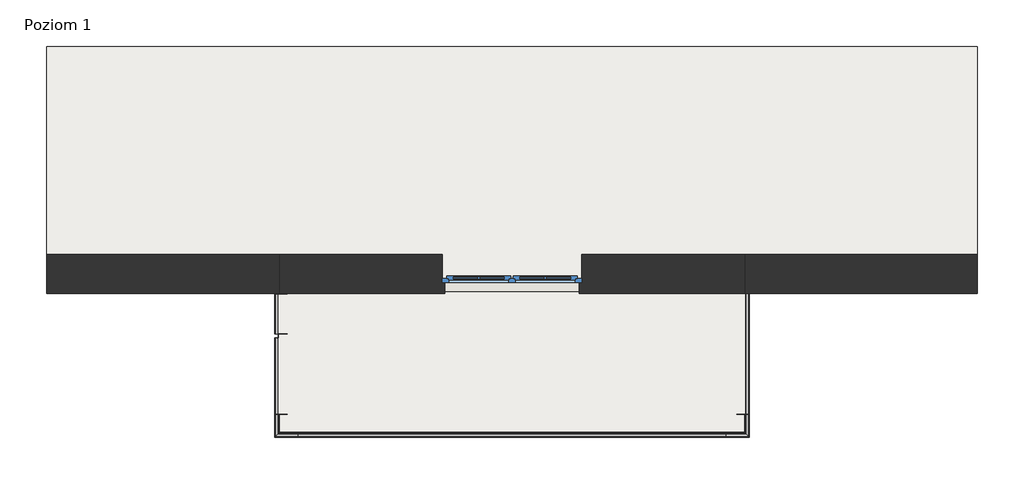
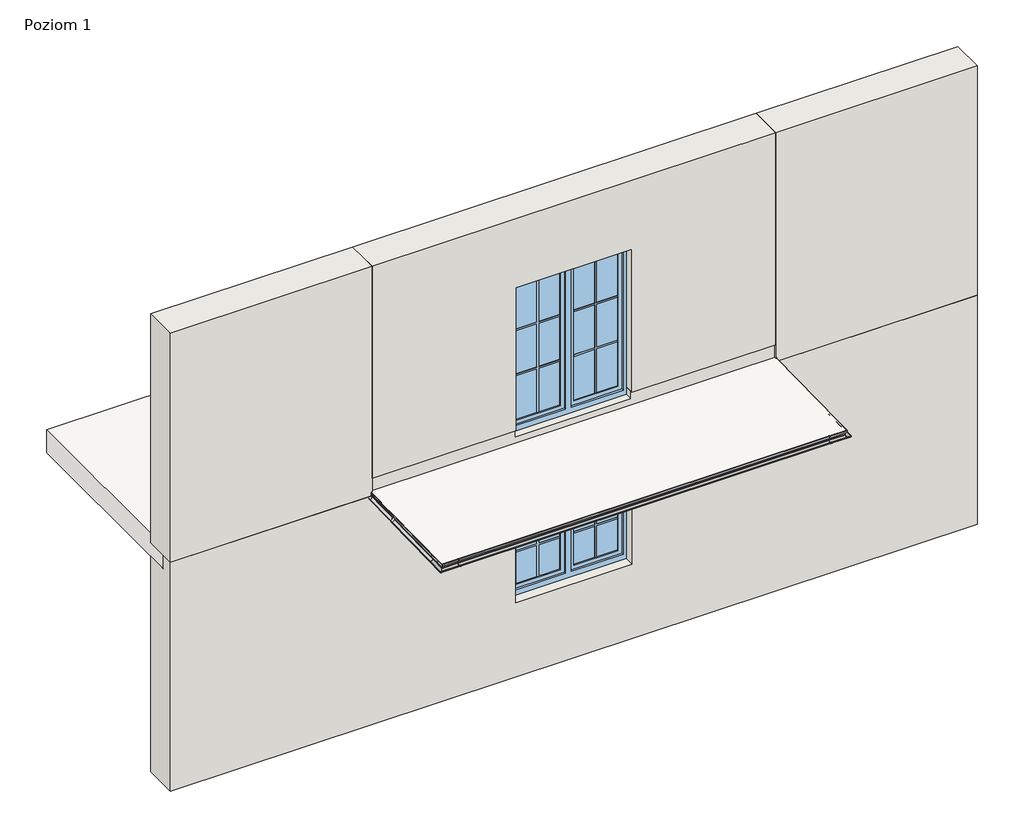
# One storey, part 1 of 4: 11 proxies, 5 walls, 2 slabs, 2 windows.
"""IFC4 building model written with IfcOpenShell, lengths in millimetres."""

from ifc_helpers import new_model, si_unit, origin, place, context, project, spatial, faceted_brep, transform, mapped, element, save
from components import k35_28f71dd0, k35_04bc4968, k35_f5893a44, k35_29e522b6, k35_ef854efd, opk35_b9e4c53d, opk35_ea140d36, rynna_alu_r50_rynna_alu_r50_54312427, rynna_alu_r50_rynna_alu_r50_f6262e87, rynna_alu_r50_rynna_alu_r50_866323d3, rynna_alu_r50_rynna_alu_r50_2037c152, window_150x150_51b7f79a, window_150x200_12b14935

model = new_model("IFC4")

# Units and contexts
model_context = context("Model", 3, world=origin())
ifc_project = project(units=[si_unit("LENGTHUNIT", "METRE", prefix="MILLI")], contexts=[model_context])

# Site, building, storey
site = spatial("IfcSite", under=ifc_project)
building = spatial("IfcBuilding", under=site)
storey = spatial("IfcBuildingStorey", under=building, Name="Poziom 1", Elevation=0.0)

# Proxies
placement = place(None, origin())
k35_shape = k35_28f71dd0(model_context)
element("IfcBuildingElementProxy", 1, Name="K35 Profil okapowy prosty z rynną : K35", ObjectType="K35 Profil okapowy prosty z rynną : K35", at=placement, inside=storey, context=model_context, shape_type="MappedRepresentation", body=[
    mapped(k35_shape, transform((-93404.0384126, 47766.9447036, -109.0), x_axis=(1.0, 0.0, 0.0), y_axis=(0.0, 0.9998044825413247, 0.019773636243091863), z_axis=(0.0, -0.019773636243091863, 0.9998044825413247))),
])
k35_2_shape = k35_04bc4968(model_context)
element("IfcBuildingElementProxy", 2, Name="K35 Profil okapowy prosty z rynną : K35", ObjectType="K35 Profil okapowy prosty z rynną : K35", at=placement, inside=storey, context=model_context, shape_type="MappedRepresentation", body=[
    mapped(k35_2_shape, transform((-93403.8139004, 47976.903645, -104.8475364), x_axis=(0.0, 0.9998044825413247, 0.01977363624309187), y_axis=(-1.0000000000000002, 0.0, 0.0), z_axis=(0.0, -0.019773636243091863, 0.9998044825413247))),
])
k35_3_shape = k35_f5893a44(model_context)
element("IfcBuildingElementProxy", 3, Name="K35 Profil okapowy prosty z rynną : K35", ObjectType="K35 Profil okapowy prosty z rynną : K35", at=placement, inside=storey, context=model_context, shape_type="MappedRepresentation", body=[
    mapped(k35_3_shape, transform((-93403.8139004, 48841.5338066, -87.7473107), x_axis=(0.0, 0.9998044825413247, 0.01977363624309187), y_axis=(-1.0000000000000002, 0.0, 0.0), z_axis=(0.0, -0.019773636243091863, 0.9998044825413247))),
])
k35_4_shape = k35_29e522b6(model_context)
element("IfcBuildingElementProxy", 4, Name="K35 Profil okapowy prosty z rynną : K35", ObjectType="K35 Profil okapowy prosty z rynną : K35", at=placement, inside=storey, context=model_context, shape_type="MappedRepresentation", body=[
    mapped(k35_4_shape, transform((-93403.8139004, 48796.7433207, -88.6331547), x_axis=(-0.006059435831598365, 0.9997861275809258, 0.019773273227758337), y_axis=(-0.9999816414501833, -0.0060582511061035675, -0.00011981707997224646), z_axis=(0.0, -0.019773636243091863, 0.9998044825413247))),
])
k35_5_shape = k35_ef854efd(model_context)
element("IfcBuildingElementProxy", 5, Name="K35 Profil okapowy prosty z rynną : K35", ObjectType="K35 Profil okapowy prosty z rynną : K35", at=placement, inside=storey, context=model_context, shape_type="MappedRepresentation", body=[
    mapped(k35_5_shape, transform((-88384.0373349, 47976.903645, -104.8475364), x_axis=(0.0002879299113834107, 0.9998044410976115, 0.019773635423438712), y_axis=(-0.9999999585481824, 0.0002878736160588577, 5.693421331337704e-06), z_axis=(0.0, -0.019773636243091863, 0.9998044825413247))),
])
opk35_shape = opk35_b9e4c53d(model_context)
element("IfcBuildingElementProxy", 6, Name="Odbojnik - OPK35 : OPK35", ObjectType="Odbojnik - OPK35 : OPK35", at=placement, inside=storey, context=model_context, shape_type="MappedRepresentation", body=[
    mapped(opk35_shape, transform((-93398.0639006, 49269.1632959, -95.086639), x_axis=(0.0, -0.9998044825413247, -0.01977363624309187), y_axis=(1.0000000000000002, 0.0, 0.0), z_axis=(0.0, -0.019773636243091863, 0.9998044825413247))),
])
opk35_2_shape = opk35_ea140d36(model_context)
element("IfcBuildingElementProxy", 7, Name="Odbojnik - OPK35 : OPK35", ObjectType="Odbojnik - OPK35 : OPK35", at=placement, inside=storey, context=model_context, shape_type="MappedRepresentation", body=[
    mapped(opk35_2_shape, transform((-88389.4138318, 49274.1638231, -94.987741), x_axis=(-0.0002879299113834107, -0.9998044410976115, -0.019773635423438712), y_axis=(0.9999999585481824, -0.0002878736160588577, -5.693421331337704e-06), z_axis=(0.0, -0.019773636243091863, 0.9998044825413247))),
])
rynna_alu_r50_rynna_alu_r50_shape = rynna_alu_r50_rynna_alu_r50_54312427(model_context)
element("IfcBuildingElementProxy", 8, Name="Rynna ALU R50 : Rynna ALU R50", ObjectType="Rynna ALU R50 : Rynna ALU R50", at=placement, inside=storey, context=model_context, shape_type="MappedRepresentation", body=[
    mapped(rynna_alu_r50_rynna_alu_r50_shape, transform((-90894.0384076, 47783.1321022, -128.3667451), x_axis=(1.0, 0.0, 0.0), y_axis=(0.0, 0.9998044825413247, 0.019773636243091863), z_axis=(0.0, -0.019773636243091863, 0.9998044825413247))),
])
rynna_alu_r50_rynna_alu_r50_2_shape = rynna_alu_r50_rynna_alu_r50_f6262e87(model_context)
element("IfcBuildingElementProxy", 9, Name="Rynna ALU R50 : Rynna ALU R50", ObjectType="Rynna ALU R50 : Rynna ALU R50", at=placement, inside=storey, context=model_context, shape_type="MappedRepresentation", body=[
    mapped(rynna_alu_r50_rynna_alu_r50_2_shape, transform((-93388.0126177, 48387.2126881, -116.4195394), x_axis=(0.0, 0.9998044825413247, 0.01977363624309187), y_axis=(-1.0000000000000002, 0.0, 0.0), z_axis=(0.0, -0.019773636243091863, 0.9998044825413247))),
])
rynna_alu_r50_rynna_alu_r50_3_shape = rynna_alu_r50_rynna_alu_r50_866323d3(model_context)
element("IfcBuildingElementProxy", 10, Name="Rynna ALU R50 : Rynna ALU R50", ObjectType="Rynna ALU R50 : Rynna ALU R50", at=placement, inside=storey, context=model_context, shape_type="MappedRepresentation", body=[
    mapped(rynna_alu_r50_rynna_alu_r50_3_shape, transform((-93388.0126177, 49056.9813336, -103.1731879), x_axis=(0.0, 0.9998044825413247, 0.01977363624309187), y_axis=(-1.0000000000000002, 0.0, 0.0), z_axis=(0.0, -0.019773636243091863, 0.9998044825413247))),
])
rynna_alu_r50_rynna_alu_r50_4_shape = rynna_alu_r50_rynna_alu_r50_2037c152(model_context)
element("IfcBuildingElementProxy", 11, Name="Rynna ALU R50 : Rynna ALU R50", ObjectType="Rynna ALU R50 : Rynna ALU R50", at=placement, inside=storey, context=model_context, shape_type="MappedRepresentation", body=[
    mapped(rynna_alu_r50_rynna_alu_r50_4_shape, transform((-88399.6514625, 48627.1702375, -111.6737782), x_axis=(0.0002879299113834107, 0.9998044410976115, 0.019773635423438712), y_axis=(-0.9999999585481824, 0.0002878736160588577, 5.693421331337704e-06), z_axis=(0.0, -0.019773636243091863, 0.9998044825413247))),
])

# Slabs
element("IfcSlab", 12, ObjectType="Balkon - wykończenie - posadzka ceramiczna", at=placement, inside=storey, context=model_context, shape_type="Brep", body=[
    faceted_brep([(-93404.0384126, 47766.9447036, -125.0), (-93404.0384126, 47766.9447036, -109.0), (-93404.0384126, 49384.9447036, -77.0), (-93404.0384126, 49384.9447036, -93.0), (-93394.0384126, 49384.9447036, -77.0), (-88394.0384126, 49384.9447036, -77.0), (-88384.0384126, 49384.9447036, -77.0), (-88384.0384126, 49384.9447036, -93.0), (-88394.0384126, 49384.9447036, -93.0), (-93394.0384126, 49384.9447036, -93.0), (-88384.0384126, 47766.9447036, -125.0), (-88384.0384126, 47766.9447036, -109.0)], [[[0, 1, 2, 3]], [[3, 2, 4, 5, 6, 7, 8, 9]], [[10, 11, 1, 0]], [[7, 6, 11, 10]], [[11, 6, 5, 4, 2, 1]], [[10, 0, 3, 9, 8, 7]]]),
])
element("IfcSlab", 13, ObjectType="Strop", at=placement, inside=storey, context=model_context, shape_type="Brep", body=[
    faceted_brep([(-85894.0384126, 49431.9447036, -300.0), (-95894.0384126, 49431.9447036, -300.0), (-95894.0384126, 49696.9447036, -300.0), (-95894.0384126, 51931.9447036, -300.0), (-85894.0384126, 51931.9447036, -300.0), (-85894.0384126, 49696.9447036, -300.0), (-85894.0384126, 49431.9447036, 0.0), (-85894.0384126, 51931.9447036, 0.0), (-95894.0384126, 51931.9447036, 0.0), (-95894.0384126, 49431.9447036, 0.0), (-93394.0384126, 49431.9447036, 0.0), (-91644.0384126, 49431.9447036, 0.0), (-90144.0384126, 49431.9447036, 0.0), (-88394.0384126, 49431.9447036, 0.0), (-85894.0384126, 49431.9447036, -125.0), (-95894.0384126, 49431.9447036, -125.0)], [[[0, 1, 2, 3, 4, 5]], [[6, 7, 8, 9, 10, 11, 12, 13]], [[1, 0, 14, 6, 13, 12, 11, 10, 9, 15]], [[3, 2, 1, 15, 9, 8]], [[4, 3, 8, 7]], [[0, 5, 4, 7, 6, 14]]]),
])

# Walls
element("IfcWall", 14, ObjectType="Porotherm P+W 25 + o15 + t", at=placement, inside=storey, context=model_context, shape_type="Brep", body=[
    faceted_brep([(-95894.0384126, 49276.9447036, -3125.0), (-85894.0384126, 49276.9447036, -3125.0), (-85894.0384126, 49276.9447036, -125.0), (-88394.0384126, 49276.9447036, -125.0), (-93394.0384126, 49276.9447036, -125.0), (-95894.0384126, 49276.9447036, -125.0), (-90174.0384126, 49276.9447036, -680.0), (-90174.0384126, 49276.9447036, -2150.0), (-91614.0384126, 49276.9447036, -2150.0), (-91614.0384126, 49276.9447036, -680.0), (-85894.0384126, 49696.9447036, -3125.0), (-95894.0384126, 49696.9447036, -3125.0), (-95894.0384126, 49696.9447036, -300.0), (-85894.0384126, 49696.9447036, -300.0), (-90144.0384126, 49696.9447036, -2150.0), (-90144.0384126, 49696.9447036, -650.0), (-91644.0384126, 49696.9447036, -650.0), (-91644.0384126, 49696.9447036, -2150.0), (-85894.0384126, 49431.9447036, -300.0), (-85894.0384126, 49431.9447036, -125.0), (-88394.0384126, 49431.9447036, -125.0), (-93394.0384126, 49431.9447036, -125.0), (-95894.0384126, 49431.9447036, -125.0), (-95894.0384126, 49431.9447036, -300.0), (-90144.0384126, 49396.9447036, -650.0), (-90144.0384126, 49396.9447036, -2150.0), (-90174.0384126, 49396.9447036, -680.0), (-90174.0384126, 49396.9447036, -2150.0), (-91644.0384126, 49396.9447036, -650.0), (-91644.0384126, 49396.9447036, -2150.0), (-91614.0384126, 49396.9447036, -2150.0), (-91614.0384126, 49396.9447036, -680.0)], [[[0, 1, 2, 3, 4, 5], [6, 7, 8, 9]], [[10, 11, 12, 13], [14, 15, 16, 17]], [[1, 0, 11, 10]], [[2, 1, 10, 13, 18, 19]], [[5, 4, 3, 2, 19, 20, 21, 22]], [[0, 5, 22, 23, 12, 11]], [[24, 15, 14, 25]], [[6, 26, 27, 7]], [[23, 18, 13, 12]], [[18, 23, 22, 21, 20, 19]], [[15, 24, 28, 16]], [[25, 14, 17, 29, 30, 8, 7, 27]], [[28, 24, 25, 27, 26, 31, 30, 29]], [[28, 29, 17, 16]], [[26, 6, 9, 31]], [[8, 30, 31, 9]]]),
])
element("IfcWall", 15, ObjectType="Porotherm P+W 25 + o15 + t", at=placement, inside=storey, context=model_context, shape_type="Brep", body=[
    faceted_brep([(-95894.0384126, 49276.9447036, -125.0), (-93394.0384126, 49276.9447036, -125.0), (-93394.0384126, 49276.9447036, 100.0), (-93394.0384126, 49276.9447036, 2875.0), (-95894.0384126, 49276.9447036, 2875.0), (-95894.0384126, 49696.9447036, -125.0), (-95894.0384126, 49696.9447036, 2875.0), (-93394.0384126, 49696.9447036, 2875.0), (-93394.0384126, 49696.9447036, 100.0), (-93394.0384126, 49696.9447036, 0.0), (-93394.0384126, 49696.9447036, -125.0), (-95894.0384126, 49431.9447036, -125.0), (-93394.0384126, 49431.9447036, -125.0), (-93394.0384126, 49298.9447036, -125.0)], [[[0, 1, 2, 3, 4]], [[5, 6, 7, 8, 9, 10]], [[1, 0, 11, 5, 10, 12, 13]], [[4, 3, 7, 6]], [[0, 4, 6, 5, 11]], [[1, 13, 12, 10, 9, 8, 7, 3, 2]]]),
])
element("IfcWall", 16, ObjectType="Porotherm P+W 25 + o15 + t", at=placement, inside=storey, context=model_context, shape_type="Brep", body=[
    faceted_brep([(-88394.0384126, 49276.9447036, 2875.0), (-88394.0384126, 49276.9447036, 100.0), (-88394.0384126, 49276.9447036, -125.0), (-85894.0384126, 49276.9447036, -125.0), (-85894.0384126, 49276.9447036, 2875.0), (-88394.0384126, 49696.9447036, -125.0), (-88394.0384126, 49696.9447036, 0.0), (-88394.0384126, 49696.9447036, 100.0), (-88394.0384126, 49696.9447036, 2875.0), (-85894.0384126, 49696.9447036, 2875.0), (-85894.0384126, 49696.9447036, -125.0), (-88394.0384126, 49298.9447036, -125.0), (-88394.0384126, 49431.9447036, -125.0), (-85894.0384126, 49431.9447036, -125.0)], [[[0, 1, 2, 3, 4]], [[5, 6, 7, 8, 9, 10]], [[3, 2, 11, 12, 5, 10, 13]], [[4, 3, 13, 10, 9]], [[0, 4, 9, 8]], [[0, 8, 7, 6, 5, 12, 11, 2, 1]]]),
])
element("IfcWall", 17, ObjectType="Porotherm P+W 25 + o12 + pł ceramiczne", at=placement, inside=storey, context=model_context, shape_type="Brep", body=[
    faceted_brep([(-93394.0384126, 49298.9447036, -125.0), (-88394.0384126, 49298.9447036, -125.0), (-88394.0384126, 49298.9447036, -94.7008653), (-93394.0384126, 49298.9447036, -94.7008653), (-88394.0384126, 49298.9447036, 100.0), (-90174.0384126, 49298.9447036, 100.0), (-90174.0384126, 49298.9447036, 0.0), (-91614.0384126, 49298.9447036, 0.0), (-91614.0384126, 49298.9447036, 100.0), (-93394.0384126, 49298.9447036, 100.0), (-93394.0384126, 49298.9447036, -78.7008653), (-88394.0384126, 49298.9447036, -78.7008653), (-93394.0384126, 49696.9447036, 0.0), (-93394.0384126, 49696.9447036, 100.0), (-91644.0384126, 49696.9447036, 100.0), (-91644.0384126, 49696.9447036, 0.0), (-88394.0384126, 49696.9447036, 100.0), (-88394.0384126, 49696.9447036, 0.0), (-90144.0384126, 49696.9447036, 0.0), (-90144.0384126, 49696.9447036, 100.0), (-93394.0384126, 49431.9447036, -125.0), (-88394.0384126, 49431.9447036, -125.0), (-88394.0384126, 49384.9447036, -77.0), (-88394.0384126, 49384.9447036, -93.0), (-88394.0384126, 49431.9447036, 0.0), (-90144.0384126, 49396.9447036, 100.0), (-90174.0384126, 49396.9447036, 100.0), (-91614.0384126, 49396.9447036, 100.0), (-91644.0384126, 49396.9447036, 100.0), (-93394.0384126, 49431.9447036, 0.0), (-93394.0384126, 49384.9447036, -93.0), (-93394.0384126, 49384.9447036, -77.0), (-91644.0384126, 49431.9447036, 0.0), (-90144.0384126, 49431.9447036, 0.0), (-91644.0384126, 49396.9447036, 0.0), (-91614.0384126, 49396.9447036, 0.0), (-90174.0384126, 49396.9447036, 0.0), (-90144.0384126, 49396.9447036, 0.0)], [[[0, 1, 2, 3]], [[4, 5, 6, 7, 8, 9, 10, 11]], [[12, 13, 14, 15]], [[16, 17, 18, 19]], [[1, 0, 20, 21]], [[16, 4, 11, 22, 23, 2, 1, 21, 24, 17]], [[4, 16, 19, 25, 26, 5]], [[13, 9, 8, 27, 28, 14]], [[9, 13, 12, 29, 20, 0, 3, 30, 31, 10]], [[12, 15, 32, 29]], [[17, 24, 33, 18]], [[21, 20, 29, 32, 33, 24]], [[22, 31, 30, 23]], [[31, 22, 11, 10]], [[23, 30, 3, 2]], [[34, 35, 7, 6, 36, 37, 33, 32]], [[35, 34, 28, 27]], [[37, 36, 26, 25]], [[37, 25, 19, 18, 33]], [[28, 34, 32, 15, 14]], [[36, 6, 5, 26]], [[7, 35, 27, 8]]]),
])
element("IfcWall", 18, ObjectType="Porotherm P+W 25 + o15 + t", at=placement, inside=storey, context=model_context, shape_type="Brep", body=[
    faceted_brep([(-88394.0384126, 49276.9447036, 100.0), (-88394.0384126, 49276.9447036, 2875.0), (-93394.0384126, 49276.9447036, 2875.0), (-93394.0384126, 49276.9447036, 100.0), (-91614.0384126, 49276.9447036, 100.0), (-91614.0384126, 49276.9447036, 1970.0), (-90174.0384126, 49276.9447036, 1970.0), (-90174.0384126, 49276.9447036, 100.0), (-88394.0384126, 49696.9447036, 2875.0), (-88394.0384126, 49696.9447036, 100.0), (-90144.0384126, 49696.9447036, 100.0), (-90144.0384126, 49696.9447036, 2000.0), (-91644.0384126, 49696.9447036, 2000.0), (-91644.0384126, 49696.9447036, 100.0), (-93394.0384126, 49696.9447036, 100.0), (-93394.0384126, 49696.9447036, 2875.0), (-93394.0384126, 49298.9447036, 100.0), (-91644.0384126, 49396.9447036, 100.0), (-91614.0384126, 49396.9447036, 100.0), (-91614.0384126, 49298.9447036, 100.0), (-88394.0384126, 49298.9447036, 100.0), (-90174.0384126, 49298.9447036, 100.0), (-90174.0384126, 49396.9447036, 100.0), (-90144.0384126, 49396.9447036, 100.0), (-90144.0384126, 49396.9447036, 2000.0), (-90174.0384126, 49396.9447036, 1970.0), (-91644.0384126, 49396.9447036, 2000.0), (-91614.0384126, 49396.9447036, 1970.0)], [[[0, 1, 2, 3, 4, 5, 6, 7]], [[8, 9, 10, 11, 12, 13, 14, 15]], [[3, 16, 14, 13, 17, 18, 19, 4]], [[9, 20, 0, 7, 21, 22, 23, 10]], [[1, 0, 20, 9, 8]], [[2, 1, 8, 15]], [[3, 2, 15, 14, 16]], [[24, 11, 10, 23]], [[6, 25, 22, 21, 7]], [[26, 12, 11, 24]], [[26, 24, 23, 22, 25, 27, 18, 17]], [[12, 26, 17, 13]], [[27, 25, 6, 5]], [[27, 5, 4, 19, 18]]]),
])

# Windows
window_150x150_shape = window_150x150_51b7f79a(model_context)
element("IfcWindow", 19, ObjectType="OKNO_2X_W_SZ : 150x150", at=placement, inside=storey, context=model_context, shape_type="MappedRepresentation", body=[
    mapped(window_150x150_shape, transform((-90894.0384126, 49486.9447036, -3000.0), x_axis=(-1.0, 0.0, 0.0), y_axis=(0.0, -1.0, 0.0), z_axis=(0.0, 0.0, 1.0))),
])
window_150x200_shape = window_150x200_12b14935(model_context)
element("IfcWindow", 20, ObjectType="OKNO_2X_W_SZ : 150x200", at=placement, inside=storey, context=model_context, shape_type="MappedRepresentation", body=[
    mapped(window_150x200_shape, transform((-90894.0384126, 49486.9447036, -850.0), x_axis=(-1.0, 0.0, 0.0), y_axis=(0.0, -1.0, 0.0), z_axis=(0.0, 0.0, 1.0))),
])

save(model, "model.ifc")
